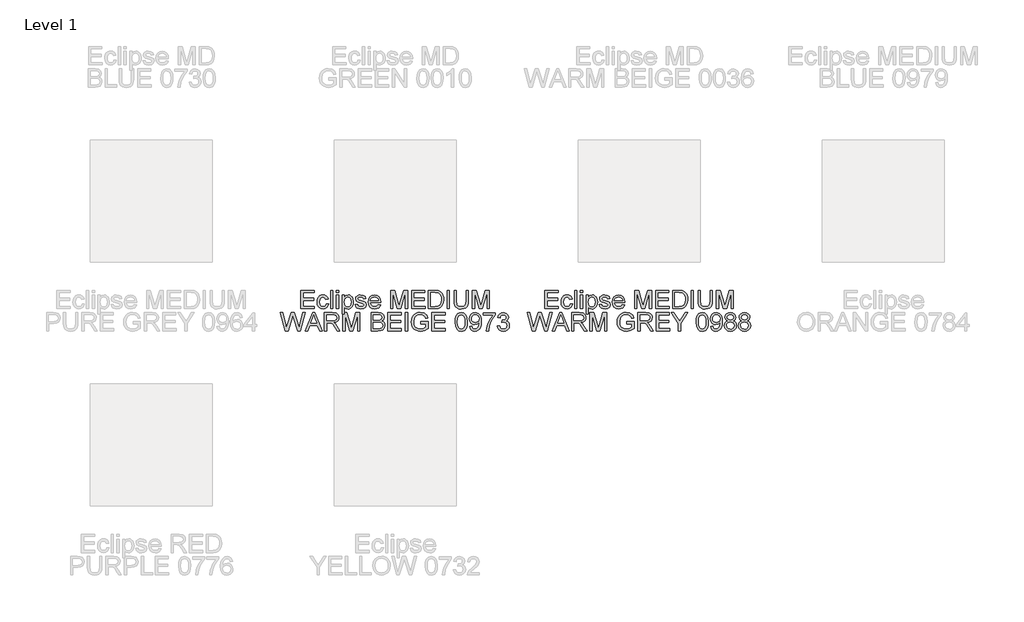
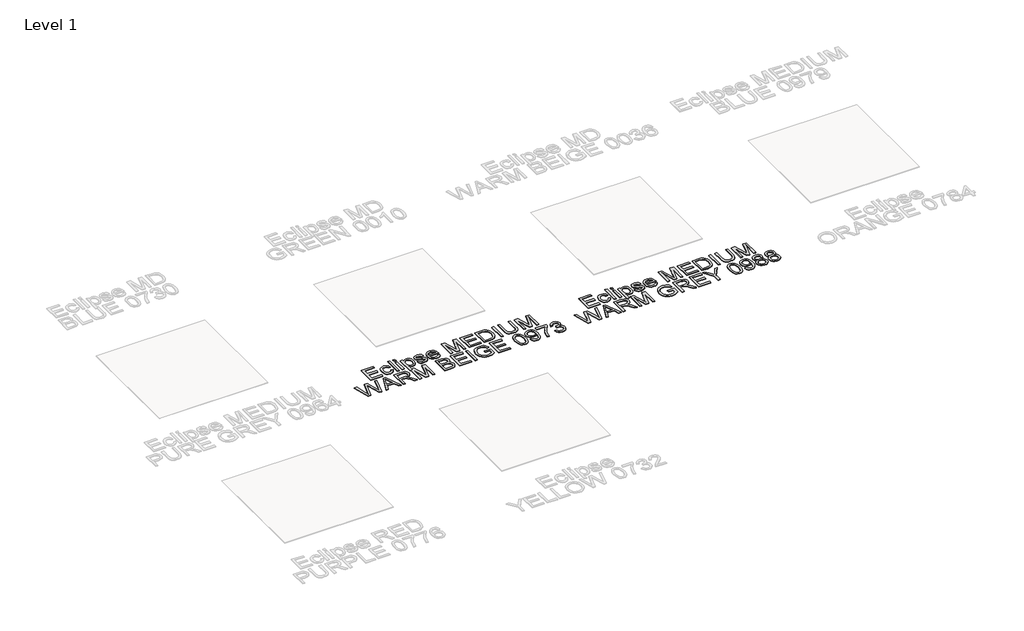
# One storey, part 5 of 13: 2 proxies.
"""IFC4 building model written with IfcOpenShell, lengths in millimetres."""

from ifc_helpers import new_model, si_unit, origin, origin_with_axes, place, context, project, spatial, polyline, outline, extrude, element, save

model = new_model("IFC4")

# Units and contexts
model_context = context("Model", 3, world=origin())
ifc_project = project(units=[si_unit("LENGTHUNIT", "METRE", prefix="MILLI")], contexts=[model_context])

# Site, building, storey
site = spatial("IfcSite", under=ifc_project)
building = spatial("IfcBuilding", under=site)
storey = spatial("IfcBuildingStorey", under=building, Name="Level 1", Elevation=0.0)

# Proxies
placement = place(None, origin())
element("IfcBuildingElementProxy", 1, Name="150mm Arial", ObjectType="150mm Arial", at=placement, inside=storey, context=model_context, shape_type="SweptSolid", body=[
    extrude(outline(polyline([(1293.8012724, -5362.9455422), (1293.8012724, -5212.261077), (1402.1057318, -5212.261077), (1402.1057318, -5231.0966352), (1312.6368306, -5231.0966352), (1312.6368306, -5275.8310858), (1397.3968423, -5275.8310858), (1397.3968423, -5294.6666439), (1312.6368306, -5294.6666439), (1312.6368306, -5344.1099841), (1404.4601766, -5344.1099841), (1404.4601766, -5362.9455422), (1293.8012724, -5362.9455422)])), origin_with_axes(), (0.0, 0.0, 1.0), 5.0),
    extrude(outline(polyline([(1500.9924121, -5322.9199812), (1519.8279703, -5325.2744259), (1514.5764548, -5342.0268523), (1504.7080202, -5354.6865914), (1491.1515687, -5362.6466381), (1474.8360022, -5365.299987), (1454.8002291, -5361.5981744), (1439.1330546, -5350.4927367), (1429.0208983, -5332.4711175), (1425.6501795, -5308.0207603), (1427.0895178, -5291.2591369), (1431.4075327, -5276.7323967), (1438.6732021, -5265.0015595), (1448.9555039, -5256.6276456), (1461.2565581, -5251.6060564), (1474.5784848, -5249.9321933), (1490.4939797, -5252.2314558), (1503.2180982, -5259.1292432), (1512.3461702, -5270.2576735), (1517.4735255, -5285.2488648), (1498.6379673, -5287.6033096), (1489.9007699, -5273.4950351), (1474.7256376, -5268.7677515), (1462.5533421, -5271.0946051), (1452.8918412, -5278.0751659), (1446.5872635, -5290.0865131), (1444.4857376, -5307.5057256), (1446.5412783, -5325.1594628), (1452.7079002, -5337.2121967), (1462.1946572, -5344.1513708), (1474.2106028, -5346.4644288), (1483.9640742, -5345.020492), (1491.9609091, -5340.6886815), (1497.7780432, -5333.3586328), (1500.9924121, -5322.9199812)])), origin_with_axes(), (0.0, 0.0, 1.0), 5.0),
    extrude(outline(polyline([(1536.3090836, -5362.9455422), (1536.3090836, -5212.261077), (1555.1446418, -5212.261077), (1555.1446418, -5362.9455422), (1536.3090836, -5362.9455422)])), origin_with_axes(), (0.0, 0.0, 1.0), 5.0),
    extrude(outline(polyline([(1583.397979, -5231.0966352), (1583.397979, -5212.261077), (1602.2335372, -5212.261077), (1602.2335372, -5231.0966352), (1583.397979, -5231.0966352)])), origin_with_axes(), (0.0, 0.0, 1.0), 5.0),
    extrude(outline(polyline([(1583.397979, -5362.9455422), (1583.397979, -5252.2866381), (1602.2335372, -5252.2866381), (1602.2335372, -5362.9455422), (1583.397979, -5362.9455422)])), origin_with_axes(), (0.0, 0.0, 1.0), 5.0),
    extrude(outline(polyline([(1630.4868744, -5405.3255481), (1630.4868744, -5252.2866381), (1649.3224326, -5252.2866381), (1649.3224326, -5270.7543142), (1662.3454552, -5255.1377235), (1679.9302146, -5249.9321933), (1692.6681286, -5251.7532092), (1703.805756, -5257.2162568), (1712.8740472, -5265.9902424), (1719.4039526, -5277.7440721), (1724.6646652, -5306.7699616), (1723.1793416, -5322.8785944), (1718.7233709, -5337.2857731), (1711.4393074, -5349.260332), (1701.4697054, -5358.0711058), (1689.8584299, -5363.4927667), (1677.6493462, -5365.299987), (1661.2602033, -5360.4623388), (1649.3224326, -5348.2302624), (1649.3224326, -5405.3255481), (1630.4868744, -5405.3255481)]), holes=[polyline([(1649.3224326, -5308.4990069), (1651.3595791, -5325.3847905), (1657.4710187, -5337.1938026), (1666.4887262, -5344.1467723), (1677.244676, -5346.4644288), (1688.1753698, -5344.0639988), (1697.4230034, -5336.8627088), (1703.7275811, -5324.6214354), (1705.829107, -5307.1010554), (1703.7781649, -5290.3072423), (1697.6253385, -5278.3326833), (1688.6214267, -5271.1589844), (1678.0172282, -5268.7677515), (1667.3716429, -5271.3107358), (1658.0228417, -5278.9396886), (1651.4975348, -5291.4154868), (1649.3224326, -5308.4990069)])]), origin_with_axes(), (0.0, 0.0, 1.0), 5.0),
    extrude(outline(polyline([(1738.7913338, -5329.9833155), (1757.6268919, -5327.6288707), (1760.597539, -5335.6854864), (1766.3456952, -5341.6083865), (1786.3216876, -5346.4644288), (1805.5251277, -5342.0130567), (1811.7791216, -5331.565208), (1810.2064261, -5326.764348), (1805.4883395, -5323.1039222), (1786.1009584, -5317.732845), (1757.7372565, -5308.517401), (1745.3580274, -5297.7568527), (1741.1457785, -5282.5633263), (1744.5302929, -5268.5286282), (1753.764131, -5257.804868), (1765.7386899, -5252.2314558), (1781.9438918, -5249.9321933), (1804.8629401, -5253.6294074), (1819.4310671, -5263.6357976), (1825.9057902, -5280.5399753), (1807.0702321, -5282.8944201), (1799.9885037, -5272.5017537), (1783.4154198, -5268.7677515), (1765.389202, -5272.3362068), (1759.9813367, -5280.6503399), (1762.2254169, -5286.1317816), (1769.251963, -5290.2888482), (1785.475559, -5294.2987619), (1813.1218909, -5303.164718), (1825.9609725, -5313.2078965), (1830.6146798, -5329.5786453), (1825.1516321, -5347.604863), (1809.3878887, -5360.683068), (1786.0641702, -5365.299987), (1767.0722622, -5363.0743009), (1753.212308, -5356.3972427), (1743.9600758, -5345.3423888), (1738.7913338, -5329.9833155)])), origin_with_axes(), (0.0, 0.0, 1.0), 5.0),
    extrude(outline(polyline([(1929.2806309, -5329.9833155), (1947.748307, -5332.3377602), (1941.0942415, -5346.2528967), (1930.4762474, -5356.6547601), (1916.1334481, -5363.1386803), (1898.3049669, -5365.299987), (1876.204456, -5361.5705833), (1859.1991108, -5350.3823721), (1848.355789, -5332.4619204), (1844.7413484, -5308.5357951), (1848.3925772, -5283.804928), (1859.3462636, -5265.3096607), (1876.1216826, -5253.7765602), (1897.2381091, -5249.9321933), (1917.6969466, -5253.7673631), (1934.0447027, -5265.2728725), (1944.7638644, -5283.7313516), (1948.3369182, -5308.4254305), (1948.2265536, -5313.5022021), (1863.5769065, -5313.5022021), (1866.8372607, -5327.6012795), (1874.4110313, -5337.9663548), (1885.3417251, -5344.3399103), (1898.6728489, -5346.4644288), (1917.140525, -5342.5280915), (1929.2806309, -5329.9833155)]), holes=[polyline([(1863.5769065, -5294.6666439), (1929.5013601, -5294.6666439), (1926.9537773, -5284.715436), (1921.9597792, -5277.5969193), (1910.9785016, -5270.9750434), (1897.1645327, -5268.7677515), (1884.4680053, -5270.5289865), (1873.9695729, -5275.8126917), (1866.6717138, -5284.0486498), (1863.5769065, -5294.6666439)])]), origin_with_axes(), (0.0, 0.0, 1.0), 5.0),
    extrude(outline(polyline([(2028.3880404, -5362.9455422), (2028.3880404, -5212.261077), (2060.7984442, -5212.261077), (2091.6269554, -5318.468609), (2097.8441611, -5340.6518933), (2104.5764016, -5316.629199), (2134.889878, -5212.261077), (2167.3002818, -5212.261077), (2167.3002818, -5362.9455422), (2148.4647236, -5362.9455422), (2148.4647236, -5231.0966352), (2110.6096663, -5362.9455422), (2085.0786558, -5362.9455422), (2047.2235985, -5231.0966352), (2047.2235985, -5362.9455422), (2028.3880404, -5362.9455422)])), origin_with_axes(), (0.0, 0.0, 1.0), 5.0),
    extrude(outline(polyline([(2200.2625085, -5362.9455422), (2200.2625085, -5212.261077), (2308.5669679, -5212.261077), (2308.5669679, -5231.0966352), (2219.0980667, -5231.0966352), (2219.0980667, -5275.8310858), (2303.8580784, -5275.8310858), (2303.8580784, -5294.6666439), (2219.0980667, -5294.6666439), (2219.0980667, -5344.1099841), (2310.9214127, -5344.1099841), (2310.9214127, -5362.9455422), (2200.2625085, -5362.9455422)])), origin_with_axes(), (0.0, 0.0, 1.0), 5.0),
    extrude(outline(polyline([(2339.1747499, -5362.9455422), (2339.1747499, -5212.261077), (2391.1564758, -5212.261077), (2418.0486497, -5214.4315808), (2440.1951458, -5225.2105232), (2450.6154033, -5236.6884415), (2458.0374225, -5250.9622629), (2462.4795976, -5267.756076), (2463.9603227, -5286.7939692), (2459.9504089, -5317.1994161), (2449.6497131, -5339.1435771), (2435.8909264, -5352.8103933), (2417.8831028, -5360.3703683), (2393.6580734, -5362.9455422), (2339.1747499, -5362.9455422)]), holes=[polyline([(2358.0103081, -5344.1099841), (2391.3404168, -5344.1099841), (2415.5838403, -5341.3876573), (2429.5633561, -5333.6989236), (2441.0228803, -5314.9921242), (2445.1247645, -5286.4996636), (2443.1152091, -5265.9718483), (2437.0865429, -5250.8151101), (2428.1792001, -5240.4040496), (2417.5336149, -5234.1132675), (2390.825382, -5231.0966352), (2358.0103081, -5231.0966352), (2358.0103081, -5344.1099841)])]), origin_with_axes(), (0.0, 0.0, 1.0), 5.0),
    extrude(outline(polyline([(2492.2136599, -5362.9455422), (2492.2136599, -5212.261077), (2511.0492181, -5212.261077), (2511.0492181, -5362.9455422), (2492.2136599, -5362.9455422)])), origin_with_axes(), (0.0, 0.0, 1.0), 5.0),
    extrude(outline(polyline([(2647.6070147, -5212.261077), (2666.4425728, -5212.261077), (2666.4425728, -5299.1915925), (2665.1641829, -5319.5492624), (2661.3290131, -5335.2256339), (2654.1645112, -5347.3197545), (2642.8981251, -5356.9306716), (2627.5022636, -5363.2076582), (2607.9493356, -5365.299987), (2588.8240704, -5363.4789711), (2573.5339749, -5358.0159235), (2562.0744508, -5349.0993836), (2554.4408994, -5336.9178911), (2550.1504756, -5320.579332), (2548.7203344, -5299.1915925), (2548.7203344, -5212.261077), (2567.5558925, -5212.261077), (2567.5558925, -5298.5294049), (2571.2715007, -5327.2425946), (2576.320681, -5335.4049764), (2584.0370059, -5341.4612337), (2606.183502, -5346.4644288), (2625.3409569, -5343.9904224), (2638.078871, -5336.5684032), (2645.2249787, -5322.1106408), (2647.6070147, -5298.5294049), (2647.6070147, -5212.261077)])), origin_with_axes(), (0.0, 0.0, 1.0), 5.0),
    extrude(outline(polyline([(2699.4047996, -5362.9455422), (2699.4047996, -5212.261077), (2731.8152034, -5212.261077), (2762.6437146, -5318.468609), (2768.8609203, -5340.6518933), (2775.5931608, -5316.629199), (2805.9066372, -5212.261077), (2838.317041, -5212.261077), (2838.317041, -5362.9455422), (2819.4814828, -5362.9455422), (2819.4814828, -5231.0966352), (2781.6264255, -5362.9455422), (2756.095415, -5362.9455422), (2718.2403577, -5231.0966352), (2718.2403577, -5362.9455422), (2699.4047996, -5362.9455422)])), origin_with_axes(), (0.0, 0.0, 1.0), 5.0),
    extrude(outline(polyline([(1165.3736679, -5545.907769), (1124.281249, -5395.2233038), (1143.7054184, -5395.2233038), (1167.5441717, -5494.2571369), (1174.9018116, -5524.8281307), (1182.7744863, -5497.788804), (1212.6465043, -5395.2233038), (1240.6423241, -5395.2233038), (1262.3473618, -5469.572255), (1278.4973814, -5524.8281307), (1285.6342921, -5495.1400537), (1309.6937746, -5395.2233038), (1329.117944, -5395.2233038), (1287.9887369, -5545.907769), (1267.8655918, -5545.907769), (1231.7395798, -5429.6570585), (1226.6995965, -5413.4334625), (1221.0342138, -5432.9679965), (1188.1087752, -5545.907769), (1165.3736679, -5545.907769)])), origin_with_axes(), (0.0, 0.0, 1.0), 5.0),
    extrude(outline(polyline([(1330.4055309, -5545.907769), (1390.5542371, -5395.2233038), (1406.5938921, -5395.2233038), (1466.7425983, -5545.907769), (1446.8401824, -5545.907769), (1429.5865168, -5498.8188736), (1367.5248242, -5498.8188736), (1350.3079469, -5545.907769), (1330.4055309, -5545.907769)]), holes=[polyline([(1374.4410058, -5479.9833155), (1422.7071235, -5479.9833155), (1409.1322779, -5442.9375985), (1398.5740646, -5414.0588619), (1389.1930738, -5439.700237), (1374.4410058, -5479.9833155)])]), origin_with_axes(), (0.0, 0.0, 1.0), 5.0),
    extrude(outline(polyline([(1486.8657435, -5545.907769), (1486.8657435, -5395.2233038), (1551.7969156, -5395.2233038), (1581.9448451, -5399.2883998), (1591.2246685, -5404.9169943), (1598.4259585, -5413.6725858), (1603.0474761, -5424.5297032), (1604.5879819, -5436.4628754), (1602.0358006, -5451.3069139), (1594.3792566, -5463.6125667), (1581.3884236, -5472.6348726), (1562.8333755, -5477.6288707), (1573.5387415, -5485.6854864), (1588.8058443, -5505.0728675), (1613.9321846, -5545.907769), (1592.0432059, -5545.907769), (1572.4350956, -5514.6745876), (1558.2716387, -5493.9996195), (1548.3204308, -5484.2323525), (1539.3625042, -5480.6455031), (1528.4364089, -5479.9833155), (1505.7013016, -5479.9833155), (1505.7013016, -5545.907769), (1486.8657435, -5545.907769)]), holes=[polyline([(1505.7013016, -5461.1477573), (1547.8605783, -5461.1477573), (1569.3632809, -5458.4806128), (1581.5769631, -5449.9457506), (1585.7524238, -5437.1618512), (1583.7612625, -5427.9739984), (1577.7877786, -5420.5703732), (1567.5100754, -5415.6867398), (1552.606256, -5414.0588619), (1505.7013016, -5414.0588619), (1505.7013016, -5461.1477573)])]), origin_with_axes(), (0.0, 0.0, 1.0), 5.0),
    extrude(outline(polyline([(1637.5502087, -5545.907769), (1637.5502087, -5395.2233038), (1669.9606125, -5395.2233038), (1700.7891237, -5501.4308358), (1707.0063294, -5523.6141201), (1713.7385699, -5499.5914258), (1744.0520463, -5395.2233038), (1776.4624501, -5395.2233038), (1776.4624501, -5545.907769), (1757.6268919, -5545.907769), (1757.6268919, -5414.0588619), (1719.7718346, -5545.907769), (1694.2408242, -5545.907769), (1656.3857669, -5414.0588619), (1656.3857669, -5545.907769), (1637.5502087, -5545.907769)])), origin_with_axes(), (0.0, 0.0, 1.0), 5.0),
    extrude(outline(polyline([(1868.2857961, -5545.907769), (1868.2857961, -5395.2233038), (1925.7857519, -5395.2233038), (1953.9471187, -5399.6562818), (1963.410883, -5405.2802778), (1970.5753848, -5413.2863097), (1976.5902555, -5432.5633263), (1971.531878, -5450.1664798), (1956.2463811, -5463.5022021), (1966.9195575, -5469.0756143), (1974.8060278, -5477.5552943), (1979.6758657, -5488.380222), (1981.299145, -5500.9893774), (1976.866167, -5521.2412812), (1965.8848894, -5535.6622554), (1949.4957465, -5543.3142009), (1925.3442935, -5545.907769), (1868.2857961, -5545.907769)]), holes=[polyline([(1887.1213542, -5456.4388678), (1921.5183208, -5456.4388678), (1941.6046777, -5454.820187), (1953.6896013, -5447.8488232), (1957.7546973, -5435.5799586), (1953.9655128, -5423.2927), (1943.1129939, -5416.0270306), (1918.9063586, -5414.0588619), (1887.1213542, -5414.0588619), (1887.1213542, -5456.4388678)]), polyline([(1887.1213542, -5527.0722108), (1925.7489637, -5527.0722108), (1939.7284795, -5526.3364469), (1951.5558857, -5522.2345626), (1959.3917722, -5513.8652472), (1962.4635868, -5501.1733184), (1958.8583433, -5486.531615), (1947.1780899, -5477.7944176), (1923.9095538, -5475.2744259), (1887.1213542, -5475.2744259), (1887.1213542, -5527.0722108)])]), origin_with_axes(), (0.0, 0.0, 1.0), 5.0),
    extrude(outline(polyline([(2007.1980375, -5545.907769), (2007.1980375, -5395.2233038), (2115.5024968, -5395.2233038), (2115.5024968, -5414.0588619), (2026.0335956, -5414.0588619), (2026.0335956, -5458.7933125), (2110.7936073, -5458.7933125), (2110.7936073, -5477.6288707), (2026.0335956, -5477.6288707), (2026.0335956, -5527.0722108), (2117.8569416, -5527.0722108), (2117.8569416, -5545.907769), (2007.1980375, -5545.907769)])), origin_with_axes(), (0.0, 0.0, 1.0), 5.0),
    extrude(outline(polyline([(2148.4647236, -5545.907769), (2148.4647236, -5395.2233038), (2167.3002818, -5395.2233038), (2167.3002818, -5545.907769), (2148.4647236, -5545.907769)])), origin_with_axes(), (0.0, 0.0, 1.0), 5.0),
    extrude(outline(polyline([(2275.6047411, -5487.0466498), (2275.6047411, -5468.2110916), (2336.8203051, -5468.2110916), (2336.8203051, -5524.5338251), (2306.5987992, -5542.3025254), (2274.648248, -5548.2622138), (2253.5180259, -5545.8939734), (2234.4203518, -5538.7892524), (2218.5554407, -5527.196371), (2207.1235077, -5511.3636497), (2200.2119248, -5492.3717416), (2197.9080638, -5471.3013004), (2200.2027277, -5450.0791078), (2207.0867195, -5430.3376402), (2218.2749307, -5413.7783519), (2233.4822527, -5402.1026971), (2252.0051112, -5395.1773185), (2273.1399318, -5392.868859), (2302.6072796, -5398.221542), (2314.3565108, -5404.6226887), (2323.2638536, -5413.1207628), (2334.6498014, -5438.044768), (2317.2857712, -5442.9375985), (2308.6957266, -5425.5183861), (2294.017235, -5415.4752076), (2272.8456262, -5411.7044172), (2248.7309614, -5415.7695132), (2232.3234244, -5426.4380911), (2222.6297338, -5440.9510358), (2216.7436219, -5470.5287482), (2218.514054, -5488.5411704), (2223.8253503, -5503.3622163), (2232.5165625, -5514.8861198), (2244.4267421, -5523.0071148), (2258.3648711, -5527.8217704), (2273.1399318, -5529.4266556), (2298.9100655, -5524.5890074), (2317.984747, -5514.2699174), (2317.984747, -5487.0466498), (2275.6047411, -5487.0466498)])), origin_with_axes(), (0.0, 0.0, 1.0), 5.0),
    extrude(outline(polyline([(2367.4280871, -5545.907769), (2367.4280871, -5395.2233038), (2475.7325465, -5395.2233038), (2475.7325465, -5414.0588619), (2386.2636453, -5414.0588619), (2386.2636453, -5458.7933125), (2471.023657, -5458.7933125), (2471.023657, -5477.6288707), (2386.2636453, -5477.6288707), (2386.2636453, -5527.0722108), (2478.0869913, -5527.0722108), (2478.0869913, -5545.907769), (2367.4280871, -5545.907769)])), origin_with_axes(), (0.0, 0.0, 1.0), 5.0),
    extrude(outline(polyline([(2558.1381134, -5471.779547), (2559.5222694, -5447.6602837), (2563.6747375, -5428.4246538), (2570.5541308, -5413.7783519), (2580.1190626, -5403.4270723), (2592.438511, -5397.2742459), (2607.5814536, -5395.2233038), (2629.5807969, -5400.0793461), (2644.7743233, -5414.077256), (2653.6034912, -5436.3709049), (2657.0247937, -5471.779547), (2655.6544333, -5495.7608545), (2651.543352, -5514.9504991), (2644.7053454, -5529.6105966), (2635.1542091, -5540.003263), (2622.8071697, -5546.1974761), (2607.5814536, -5548.2622138), (2588.0101314, -5544.6753643), (2573.1476988, -5533.914816), (2561.8905098, -5508.4297907), (2558.1381134, -5471.779547)]), holes=[polyline([(2576.9736716, -5471.7427588), (2579.1809636, -5501.371055), (2585.8028395, -5518.5189545), (2595.6620769, -5526.6997303), (2607.5814536, -5529.4266556), (2619.5008302, -5526.6905333), (2629.3600677, -5518.4821663), (2635.9819436, -5501.3250697), (2638.1892356, -5471.7427588), (2636.05552, -5442.7812487), (2629.6543733, -5425.499992), (2619.8135299, -5416.9191444), (2607.3607244, -5414.0588619), (2595.5701064, -5416.5788536), (2586.0971451, -5424.1388286), (2579.25454, -5442.4961402), (2576.9736716, -5471.7427588)])]), origin_with_axes(), (0.0, 0.0, 1.0), 5.0),
    extrude(outline(polyline([(2675.8603519, -5508.2366527), (2694.69591, -5505.8822079), (2697.9148775, -5516.5737784), (2703.1571959, -5523.8532434), (2710.2941066, -5528.0333026), (2719.1968509, -5529.4266556), (2734.4455596, -5525.8398062), (2744.7830437, -5516.2564802), (2750.9450671, -5499.8857314), (2753.6673939, -5478.0335409), (2753.5570293, -5474.3547209), (2738.4922616, -5488.6285423), (2717.8356875, -5494.1099841), (2700.6601969, -5490.7622579), (2686.3633829, -5480.7190795), (2676.7202761, -5465.2036563), (2673.5059071, -5445.4391961), (2676.8766259, -5425.0217454), (2686.9887822, -5409.0188786), (2702.1777101, -5398.6721975), (2720.7787435, -5395.2233038), (2734.8272372, -5397.1914724), (2747.6157351, -5403.0959785), (2758.3119041, -5412.6425162), (2766.0834112, -5425.5367802), (2770.8152934, -5443.3606628), (2772.3925874, -5467.6960568), (2770.8198919, -5493.4983803), (2766.1018053, -5513.4421829), (2758.2797144, -5528.4287757), (2747.3950059, -5539.3594695), (2733.9167293, -5546.0365277), (2718.3139341, -5548.2622138), (2702.2098998, -5545.636456), (2689.3616211, -5537.7591828), (2680.3761034, -5525.1270348), (2675.8603519, -5508.2366527)]), holes=[polyline([(2753.5570293, -5444.9977377), (2751.5244813, -5432.2322325), (2745.4268372, -5422.4097832), (2735.9630729, -5416.1465922), (2723.8321641, -5414.0588619), (2711.2505998, -5416.3075406), (2701.1706332, -5423.0535767), (2694.5487572, -5433.3772652), (2692.3414653, -5446.3589011), (2694.4291956, -5457.9977677), (2700.6923866, -5467.2362043), (2710.5240329, -5473.2648705), (2723.3171293, -5475.2744259), (2735.351469, -5473.2648705), (2745.0405611, -5467.2362043), (2751.4279122, -5457.6574769), (2753.5570293, -5444.9977377)])]), origin_with_axes(), (0.0, 0.0, 1.0), 5.0),
    extrude(outline(polyline([(2788.8737008, -5416.4133067), (2788.8737008, -5397.5777485), (2887.7603811, -5397.5777485), (2887.7603811, -5412.8080631), (2859.709379, -5453.3302649), (2847.3991277, -5478.7922975), (2838.2434646, -5504.9625029), (2831.2537067, -5545.907769), (2812.4181485, -5545.907769), (2819.9045471, -5503.4173986), (2828.6187519, -5478.9578444), (2840.4507565, -5455.3904041), (2868.924823, -5416.4133067), (2788.8737008, -5416.4133067)])), origin_with_axes(), (0.0, 0.0, 1.0), 5.0),
    extrude(outline(polyline([(2904.2414945, -5505.8822079), (2923.0770527, -5503.5277632), (2927.2939, -5515.3643663), (2933.469719, -5523.3566027), (2941.9080123, -5527.9091424), (2952.9122825, -5529.4266556), (2965.8249405, -5527.3389253), (2975.7945426, -5521.0757343), (2982.1680981, -5511.7315316), (2984.2926167, -5500.4007662), (2982.1864922, -5489.6448164), (2975.868119, -5480.9214145), (2966.3031871, -5475.1410687), (2954.4573868, -5473.2142868), (2941.2504232, -5475.2744259), (2943.3473506, -5456.4388678), (2946.3639829, -5456.659597), (2967.7379269, -5451.2517316), (2974.8564435, -5444.3907324), (2977.2292823, -5434.6234655), (2975.509434, -5426.4886748), (2970.349889, -5419.8897915), (2962.4772143, -5415.5165943), (2952.6179769, -5414.0588619), (2942.7403453, -5415.5303899), (2934.6653355, -5419.9449738), (2928.7700265, -5427.3026138), (2925.4314974, -5437.6033096), (2906.5959393, -5435.2488648), (2912.1417603, -5418.3354901), (2922.0101949, -5405.7079406), (2935.5114641, -5397.844463), (2951.9557893, -5395.2233038), (2974.6725025, -5400.3920458), (2990.5650047, -5414.5187144), (2996.0648405, -5433.5198195), (2990.8409162, -5450.8838496), (2975.3898724, -5463.3550493), (2987.1804903, -5468.1191211), (2995.9176877, -5476.2309191), (3001.325553, -5487.2489849), (3003.1281748, -5500.73186), (2999.5229313, -5519.0891715), (2988.7072006, -5534.4298507), (2972.3824371, -5544.804123), (2952.2500949, -5548.2622138), (2934.0399361, -5545.3099608), (2919.2142917, -5536.4532017), (2908.9043988, -5522.9059472), (2904.2414945, -5505.8822079)])), origin_with_axes(), (0.0, 0.0, 1.0), 5.0),
])
element("IfcBuildingElementProxy", 2, Name="150mm Arial", ObjectType="150mm Arial", at=placement, inside=storey, context=model_context, shape_type="SweptSolid", body=[
    extrude(outline(polyline([(3293.8012724, -5362.9455422), (3293.8012724, -5212.261077), (3402.1057318, -5212.261077), (3402.1057318, -5231.0966352), (3312.6368306, -5231.0966352), (3312.6368306, -5275.8310858), (3397.3968423, -5275.8310858), (3397.3968423, -5294.6666439), (3312.6368306, -5294.6666439), (3312.6368306, -5344.1099841), (3404.4601766, -5344.1099841), (3404.4601766, -5362.9455422), (3293.8012724, -5362.9455422)])), origin_with_axes(), (0.0, 0.0, 1.0), 5.0),
    extrude(outline(polyline([(3500.9924121, -5322.9199812), (3519.8279703, -5325.2744259), (3514.5764548, -5342.0268523), (3504.7080202, -5354.6865914), (3491.1515687, -5362.6466381), (3474.8360022, -5365.299987), (3454.8002291, -5361.5981744), (3439.1330546, -5350.4927367), (3429.0208983, -5332.4711175), (3425.6501795, -5308.0207603), (3427.0895178, -5291.2591369), (3431.4075327, -5276.7323967), (3438.6732021, -5265.0015595), (3448.9555039, -5256.6276456), (3461.2565581, -5251.6060564), (3474.5784848, -5249.9321933), (3490.4939797, -5252.2314558), (3503.2180982, -5259.1292432), (3512.3461702, -5270.2576735), (3517.4735255, -5285.2488648), (3498.6379673, -5287.6033096), (3489.9007699, -5273.4950351), (3474.7256376, -5268.7677515), (3462.5533421, -5271.0946051), (3452.8918412, -5278.0751659), (3446.5872635, -5290.0865131), (3444.4857376, -5307.5057256), (3446.5412783, -5325.1594628), (3452.7079002, -5337.2121967), (3462.1946572, -5344.1513708), (3474.2106028, -5346.4644288), (3483.9640742, -5345.020492), (3491.9609091, -5340.6886815), (3497.7780432, -5333.3586328), (3500.9924121, -5322.9199812)])), origin_with_axes(), (0.0, 0.0, 1.0), 5.0),
    extrude(outline(polyline([(3536.3090836, -5362.9455422), (3536.3090836, -5212.261077), (3555.1446418, -5212.261077), (3555.1446418, -5362.9455422), (3536.3090836, -5362.9455422)])), origin_with_axes(), (0.0, 0.0, 1.0), 5.0),
    extrude(outline(polyline([(3583.397979, -5231.0966352), (3583.397979, -5212.261077), (3602.2335372, -5212.261077), (3602.2335372, -5231.0966352), (3583.397979, -5231.0966352)])), origin_with_axes(), (0.0, 0.0, 1.0), 5.0),
    extrude(outline(polyline([(3583.397979, -5362.9455422), (3583.397979, -5252.2866381), (3602.2335372, -5252.2866381), (3602.2335372, -5362.9455422), (3583.397979, -5362.9455422)])), origin_with_axes(), (0.0, 0.0, 1.0), 5.0),
    extrude(outline(polyline([(3630.4868744, -5405.3255481), (3630.4868744, -5252.2866381), (3649.3224326, -5252.2866381), (3649.3224326, -5270.7543142), (3662.3454552, -5255.1377235), (3679.9302146, -5249.9321933), (3692.6681286, -5251.7532092), (3703.805756, -5257.2162568), (3712.8740472, -5265.9902424), (3719.4039526, -5277.7440721), (3724.6646652, -5306.7699616), (3723.1793416, -5322.8785944), (3718.7233709, -5337.2857731), (3711.4393074, -5349.260332), (3701.4697054, -5358.0711058), (3689.8584299, -5363.4927667), (3677.6493462, -5365.299987), (3661.2602033, -5360.4623388), (3649.3224326, -5348.2302624), (3649.3224326, -5405.3255481), (3630.4868744, -5405.3255481)]), holes=[polyline([(3649.3224326, -5308.4990069), (3651.3595791, -5325.3847905), (3657.4710187, -5337.1938026), (3666.4887262, -5344.1467723), (3677.244676, -5346.4644288), (3688.1753698, -5344.0639988), (3697.4230034, -5336.8627088), (3703.7275811, -5324.6214354), (3705.829107, -5307.1010554), (3703.7781649, -5290.3072423), (3697.6253385, -5278.3326833), (3688.6214267, -5271.1589844), (3678.0172282, -5268.7677515), (3667.3716429, -5271.3107358), (3658.0228417, -5278.9396886), (3651.4975348, -5291.4154868), (3649.3224326, -5308.4990069)])]), origin_with_axes(), (0.0, 0.0, 1.0), 5.0),
    extrude(outline(polyline([(3738.7913338, -5329.9833155), (3757.6268919, -5327.6288707), (3760.597539, -5335.6854864), (3766.3456952, -5341.6083865), (3786.3216876, -5346.4644288), (3805.5251277, -5342.0130567), (3811.7791216, -5331.565208), (3810.2064261, -5326.764348), (3805.4883395, -5323.1039222), (3786.1009584, -5317.732845), (3757.7372565, -5308.517401), (3745.3580274, -5297.7568527), (3741.1457785, -5282.5633263), (3744.5302929, -5268.5286282), (3753.764131, -5257.804868), (3765.7386899, -5252.2314558), (3781.9438918, -5249.9321933), (3804.8629401, -5253.6294074), (3819.4310671, -5263.6357976), (3825.9057902, -5280.5399753), (3807.0702321, -5282.8944201), (3799.9885037, -5272.5017537), (3783.4154198, -5268.7677515), (3765.389202, -5272.3362068), (3759.9813367, -5280.6503399), (3762.2254169, -5286.1317816), (3769.251963, -5290.2888482), (3785.475559, -5294.2987619), (3813.1218909, -5303.164718), (3825.9609725, -5313.2078965), (3830.6146798, -5329.5786453), (3825.1516321, -5347.604863), (3809.3878887, -5360.683068), (3786.0641702, -5365.299987), (3767.0722622, -5363.0743009), (3753.212308, -5356.3972427), (3743.9600758, -5345.3423888), (3738.7913338, -5329.9833155)])), origin_with_axes(), (0.0, 0.0, 1.0), 5.0),
    extrude(outline(polyline([(3929.2806309, -5329.9833155), (3947.748307, -5332.3377602), (3941.0942415, -5346.2528967), (3930.4762474, -5356.6547601), (3916.1334481, -5363.1386803), (3898.3049669, -5365.299987), (3876.204456, -5361.5705833), (3859.1991108, -5350.3823721), (3848.355789, -5332.4619204), (3844.7413484, -5308.5357951), (3848.3925772, -5283.804928), (3859.3462636, -5265.3096607), (3876.1216826, -5253.7765602), (3897.2381091, -5249.9321933), (3917.6969466, -5253.7673631), (3934.0447027, -5265.2728725), (3944.7638644, -5283.7313516), (3948.3369182, -5308.4254305), (3948.2265536, -5313.5022021), (3863.5769065, -5313.5022021), (3866.8372607, -5327.6012795), (3874.4110313, -5337.9663548), (3885.3417251, -5344.3399103), (3898.6728489, -5346.4644288), (3917.140525, -5342.5280915), (3929.2806309, -5329.9833155)]), holes=[polyline([(3863.5769065, -5294.6666439), (3929.5013601, -5294.6666439), (3926.9537773, -5284.715436), (3921.9597792, -5277.5969193), (3910.9785016, -5270.9750434), (3897.1645327, -5268.7677515), (3884.4680053, -5270.5289865), (3873.9695729, -5275.8126917), (3866.6717138, -5284.0486498), (3863.5769065, -5294.6666439)])]), origin_with_axes(), (0.0, 0.0, 1.0), 5.0),
    extrude(outline(polyline([(4028.3880404, -5362.9455422), (4028.3880404, -5212.261077), (4060.7984442, -5212.261077), (4091.6269554, -5318.468609), (4097.8441611, -5340.6518933), (4104.5764016, -5316.629199), (4134.889878, -5212.261077), (4167.3002818, -5212.261077), (4167.3002818, -5362.9455422), (4148.4647236, -5362.9455422), (4148.4647236, -5231.0966352), (4110.6096663, -5362.9455422), (4085.0786558, -5362.9455422), (4047.2235985, -5231.0966352), (4047.2235985, -5362.9455422), (4028.3880404, -5362.9455422)])), origin_with_axes(), (0.0, 0.0, 1.0), 5.0),
    extrude(outline(polyline([(4200.2625085, -5362.9455422), (4200.2625085, -5212.261077), (4308.5669679, -5212.261077), (4308.5669679, -5231.0966352), (4219.0980667, -5231.0966352), (4219.0980667, -5275.8310858), (4303.8580784, -5275.8310858), (4303.8580784, -5294.6666439), (4219.0980667, -5294.6666439), (4219.0980667, -5344.1099841), (4310.9214127, -5344.1099841), (4310.9214127, -5362.9455422), (4200.2625085, -5362.9455422)])), origin_with_axes(), (0.0, 0.0, 1.0), 5.0),
    extrude(outline(polyline([(4339.1747499, -5362.9455422), (4339.1747499, -5212.261077), (4391.1564758, -5212.261077), (4418.0486497, -5214.4315808), (4440.1951458, -5225.2105232), (4450.6154033, -5236.6884415), (4458.0374225, -5250.9622629), (4462.4795976, -5267.756076), (4463.9603227, -5286.7939692), (4459.9504089, -5317.1994161), (4449.6497131, -5339.1435771), (4435.8909264, -5352.8103933), (4417.8831028, -5360.3703683), (4393.6580734, -5362.9455422), (4339.1747499, -5362.9455422)]), holes=[polyline([(4358.0103081, -5344.1099841), (4391.3404168, -5344.1099841), (4415.5838403, -5341.3876573), (4429.5633561, -5333.6989236), (4441.0228803, -5314.9921242), (4445.1247645, -5286.4996636), (4443.1152091, -5265.9718483), (4437.0865429, -5250.8151101), (4428.1792001, -5240.4040496), (4417.5336149, -5234.1132675), (4390.825382, -5231.0966352), (4358.0103081, -5231.0966352), (4358.0103081, -5344.1099841)])]), origin_with_axes(), (0.0, 0.0, 1.0), 5.0),
    extrude(outline(polyline([(4492.2136599, -5362.9455422), (4492.2136599, -5212.261077), (4511.0492181, -5212.261077), (4511.0492181, -5362.9455422), (4492.2136599, -5362.9455422)])), origin_with_axes(), (0.0, 0.0, 1.0), 5.0),
    extrude(outline(polyline([(4647.6070147, -5212.261077), (4666.4425728, -5212.261077), (4666.4425728, -5299.1915925), (4665.1641829, -5319.5492624), (4661.3290131, -5335.2256339), (4654.1645112, -5347.3197545), (4642.8981251, -5356.9306716), (4627.5022636, -5363.2076582), (4607.9493356, -5365.299987), (4588.8240704, -5363.4789711), (4573.5339749, -5358.0159235), (4562.0744508, -5349.0993836), (4554.4408994, -5336.9178911), (4550.1504756, -5320.579332), (4548.7203344, -5299.1915925), (4548.7203344, -5212.261077), (4567.5558925, -5212.261077), (4567.5558925, -5298.5294049), (4571.2715007, -5327.2425946), (4576.320681, -5335.4049764), (4584.0370059, -5341.4612337), (4606.183502, -5346.4644288), (4625.3409569, -5343.9904224), (4638.078871, -5336.5684032), (4645.2249787, -5322.1106408), (4647.6070147, -5298.5294049), (4647.6070147, -5212.261077)])), origin_with_axes(), (0.0, 0.0, 1.0), 5.0),
    extrude(outline(polyline([(4699.4047996, -5362.9455422), (4699.4047996, -5212.261077), (4731.8152034, -5212.261077), (4762.6437146, -5318.468609), (4768.8609203, -5340.6518933), (4775.5931608, -5316.629199), (4805.9066372, -5212.261077), (4838.317041, -5212.261077), (4838.317041, -5362.9455422), (4819.4814828, -5362.9455422), (4819.4814828, -5231.0966352), (4781.6264255, -5362.9455422), (4756.095415, -5362.9455422), (4718.2403577, -5231.0966352), (4718.2403577, -5362.9455422), (4699.4047996, -5362.9455422)])), origin_with_axes(), (0.0, 0.0, 1.0), 5.0),
    extrude(outline(polyline([(3190.095338, -5545.907769), (3149.0029191, -5395.2233038), (3168.4270885, -5395.2233038), (3192.2658417, -5494.2571369), (3199.6234816, -5524.8281307), (3207.4961563, -5497.788804), (3237.3681744, -5395.2233038), (3265.3639942, -5395.2233038), (3287.0690319, -5469.572255), (3303.2190515, -5524.8281307), (3310.3559622, -5495.1400537), (3334.4154447, -5395.2233038), (3353.839614, -5395.2233038), (3312.710407, -5545.907769), (3292.5872618, -5545.907769), (3256.4612499, -5429.6570585), (3251.4212666, -5413.4334625), (3245.7558838, -5432.9679965), (3212.8304453, -5545.907769), (3190.095338, -5545.907769)])), origin_with_axes(), (0.0, 0.0, 1.0), 5.0),
    extrude(outline(polyline([(3355.127201, -5545.907769), (3415.2759072, -5395.2233038), (3431.3155622, -5395.2233038), (3491.4642684, -5545.907769), (3471.5618525, -5545.907769), (3454.3081869, -5498.8188736), (3392.2464943, -5498.8188736), (3375.0296169, -5545.907769), (3355.127201, -5545.907769)]), holes=[polyline([(3399.1626758, -5479.9833155), (3447.4287936, -5479.9833155), (3433.853948, -5442.9375985), (3423.2957347, -5414.0588619), (3413.9147438, -5439.700237), (3399.1626758, -5479.9833155)])]), origin_with_axes(), (0.0, 0.0, 1.0), 5.0),
    extrude(outline(polyline([(3511.5874136, -5545.907769), (3511.5874136, -5395.2233038), (3576.5185857, -5395.2233038), (3606.6665152, -5399.2883998), (3615.9463385, -5404.9169943), (3623.1476286, -5413.6725858), (3627.7691462, -5424.5297032), (3629.309652, -5436.4628754), (3626.7574707, -5451.3069139), (3619.1009266, -5463.6125667), (3606.1100937, -5472.6348726), (3587.5550456, -5477.6288707), (3598.2604116, -5485.6854864), (3613.5275144, -5505.0728675), (3638.6538547, -5545.907769), (3616.764876, -5545.907769), (3597.1567656, -5514.6745876), (3582.9933088, -5493.9996195), (3573.0421009, -5484.2323525), (3564.0841743, -5480.6455031), (3553.158079, -5479.9833155), (3530.4229717, -5479.9833155), (3530.4229717, -5545.907769), (3511.5874136, -5545.907769)]), holes=[polyline([(3530.4229717, -5461.1477573), (3572.5822484, -5461.1477573), (3594.084951, -5458.4806128), (3606.2986332, -5449.9457506), (3610.4740939, -5437.1618512), (3608.4829326, -5427.9739984), (3602.5094487, -5420.5703732), (3592.2317454, -5415.6867398), (3577.3279261, -5414.0588619), (3530.4229717, -5414.0588619), (3530.4229717, -5461.1477573)])]), origin_with_axes(), (0.0, 0.0, 1.0), 5.0),
    extrude(outline(polyline([(3662.2718788, -5545.907769), (3662.2718788, -5395.2233038), (3694.6822826, -5395.2233038), (3725.5107938, -5501.4308358), (3731.7279995, -5523.6141201), (3738.46024, -5499.5914258), (3768.7737164, -5395.2233038), (3801.1841202, -5395.2233038), (3801.1841202, -5545.907769), (3782.348562, -5545.907769), (3782.348562, -5414.0588619), (3744.4935047, -5545.907769), (3718.9624942, -5545.907769), (3681.1074369, -5414.0588619), (3681.1074369, -5545.907769), (3662.2718788, -5545.907769)])), origin_with_axes(), (0.0, 0.0, 1.0), 5.0),
    extrude(outline(polyline([(3963.6408092, -5487.0466498), (3963.6408092, -5468.2110916), (4024.8563732, -5468.2110916), (4024.8563732, -5524.5338251), (3994.6348673, -5542.3025254), (3962.684316, -5548.2622138), (3941.5540939, -5545.8939734), (3922.4564199, -5538.7892524), (3906.5915088, -5527.196371), (3895.1595758, -5511.3636497), (3888.2479928, -5492.3717416), (3885.9441319, -5471.3013004), (3888.2387958, -5450.0791078), (3895.1227876, -5430.3376402), (3906.3109988, -5413.7783519), (3921.5183208, -5402.1026971), (3940.0411792, -5395.1773185), (3961.1759999, -5392.868859), (3990.6433477, -5398.221542), (4002.3925789, -5404.6226887), (4011.2999217, -5413.1207628), (4022.6858695, -5438.044768), (4005.3218393, -5442.9375985), (3996.7317947, -5425.5183861), (3982.0533031, -5415.4752076), (3960.8816943, -5411.7044172), (3936.7670295, -5415.7695132), (3920.3594925, -5426.4380911), (3910.6658019, -5440.9510358), (3904.77969, -5470.5287482), (3906.5501221, -5488.5411704), (3911.8614184, -5503.3622163), (3920.5526305, -5514.8861198), (3932.4628101, -5523.0071148), (3946.4009392, -5527.8217704), (3961.1759999, -5529.4266556), (3986.9461336, -5524.5890074), (4006.0208151, -5514.2699174), (4006.0208151, -5487.0466498), (3963.6408092, -5487.0466498)])), origin_with_axes(), (0.0, 0.0, 1.0), 5.0),
    extrude(outline(polyline([(4055.4641552, -5545.907769), (4055.4641552, -5395.2233038), (4120.3953274, -5395.2233038), (4150.5432569, -5399.2883998), (4159.8230802, -5404.9169943), (4167.0243703, -5413.6725858), (4171.6458878, -5424.5297032), (4173.1863937, -5436.4628754), (4170.6342123, -5451.3069139), (4162.9776683, -5463.6125667), (4149.9868354, -5472.6348726), (4131.4317872, -5477.6288707), (4142.1371533, -5485.6854864), (4157.4042561, -5505.0728675), (4182.5305964, -5545.907769), (4160.6416176, -5545.907769), (4141.0335073, -5514.6745876), (4126.8700505, -5493.9996195), (4116.9188425, -5484.2323525), (4107.9609159, -5480.6455031), (4097.0348207, -5479.9833155), (4074.2997134, -5479.9833155), (4074.2997134, -5545.907769), (4055.4641552, -5545.907769)]), holes=[polyline([(4074.2997134, -5461.1477573), (4116.45899, -5461.1477573), (4137.9616926, -5458.4806128), (4150.1753749, -5449.9457506), (4154.3508355, -5437.1618512), (4152.3596742, -5427.9739984), (4146.3861903, -5420.5703732), (4136.1084871, -5415.6867398), (4121.2046678, -5414.0588619), (4074.2997134, -5414.0588619), (4074.2997134, -5461.1477573)])]), origin_with_axes(), (0.0, 0.0, 1.0), 5.0),
    extrude(outline(polyline([(4206.1486205, -5545.907769), (4206.1486205, -5395.2233038), (4314.4530798, -5395.2233038), (4314.4530798, -5414.0588619), (4224.9841786, -5414.0588619), (4224.9841786, -5458.7933125), (4309.7441903, -5458.7933125), (4309.7441903, -5477.6288707), (4224.9841786, -5477.6288707), (4224.9841786, -5527.0722108), (4316.8075246, -5527.0722108), (4316.8075246, -5545.907769), (4206.1486205, -5545.907769)])), origin_with_axes(), (0.0, 0.0, 1.0), 5.0),
    extrude(outline(polyline([(4387.4408677, -5545.907769), (4387.4408677, -5482.0802428), (4328.5797484, -5395.2233038), (4350.799821, -5395.2233038), (4382.2169433, -5441.6132234), (4398.2933865, -5465.2680357), (4414.4066179, -5439.9209662), (4442.9174725, -5395.2233038), (4465.1375451, -5395.2233038), (4406.2764258, -5482.0802428), (4406.2764258, -5545.907769), (4387.4408677, -5545.907769)])), origin_with_axes(), (0.0, 0.0, 1.0), 5.0),
    extrude(outline(polyline([(4533.4164434, -5471.779547), (4534.8005994, -5447.6602837), (4538.9530674, -5428.4246538), (4545.8324607, -5413.7783519), (4555.3973926, -5403.4270723), (4567.7168409, -5397.2742459), (4582.8597835, -5395.2233038), (4604.8591268, -5400.0793461), (4620.0526532, -5414.077256), (4628.8818211, -5436.3709049), (4632.3031237, -5471.779547), (4630.9327632, -5495.7608545), (4626.8216819, -5514.9504991), (4619.9836754, -5529.6105966), (4610.4325391, -5540.003263), (4598.0854996, -5546.1974761), (4582.8597835, -5548.2622138), (4563.2884614, -5544.6753643), (4548.4260288, -5533.914816), (4537.1688397, -5508.4297907), (4533.4164434, -5471.779547)]), holes=[polyline([(4552.2520015, -5471.7427588), (4554.4592935, -5501.371055), (4561.0811694, -5518.5189545), (4570.9404069, -5526.6997303), (4582.8597835, -5529.4266556), (4594.7791602, -5526.6905333), (4604.6383976, -5518.4821663), (4611.2602735, -5501.3250697), (4613.4675655, -5471.7427588), (4611.3338499, -5442.7812487), (4604.9327032, -5425.499992), (4595.0918599, -5416.9191444), (4582.6390543, -5414.0588619), (4570.8484364, -5416.5788536), (4561.375475, -5424.1388286), (4554.5328699, -5442.4961402), (4552.2520015, -5471.7427588)])]), origin_with_axes(), (0.0, 0.0, 1.0), 5.0),
    extrude(outline(polyline([(4651.1386818, -5508.2366527), (4669.97424, -5505.8822079), (4673.1932074, -5516.5737784), (4678.4355259, -5523.8532434), (4685.5724366, -5528.0333026), (4694.4751809, -5529.4266556), (4709.7238896, -5525.8398062), (4720.0613736, -5516.2564802), (4726.223397, -5499.8857314), (4728.9457238, -5478.0335409), (4728.8353592, -5474.3547209), (4713.7705915, -5488.6285423), (4693.1140175, -5494.1099841), (4675.9385268, -5490.7622579), (4661.6417128, -5480.7190795), (4651.998606, -5465.2036563), (4648.784237, -5445.4391961), (4652.1549558, -5425.0217454), (4662.2671122, -5409.0188786), (4677.45604, -5398.6721975), (4696.0570734, -5395.2233038), (4710.1055671, -5397.1914724), (4722.894065, -5403.0959785), (4733.590234, -5412.6425162), (4741.3617411, -5425.5367802), (4746.0936233, -5443.3606628), (4747.6709174, -5467.6960568), (4746.0982218, -5493.4983803), (4741.3801352, -5513.4421829), (4733.5580443, -5528.4287757), (4722.6733358, -5539.3594695), (4709.1950592, -5546.0365277), (4693.5922641, -5548.2622138), (4677.4882297, -5545.636456), (4664.639951, -5537.7591828), (4655.6544333, -5525.1270348), (4651.1386818, -5508.2366527)]), holes=[polyline([(4728.8353592, -5444.9977377), (4726.8028112, -5432.2322325), (4720.7051671, -5422.4097832), (4711.2414028, -5416.1465922), (4699.110494, -5414.0588619), (4686.5289298, -5416.3075406), (4676.4489631, -5423.0535767), (4669.8270872, -5433.3772652), (4667.6197952, -5446.3589011), (4669.7075255, -5457.9977677), (4675.9707165, -5467.2362043), (4685.8023628, -5473.2648705), (4698.5954592, -5475.2744259), (4710.629799, -5473.2648705), (4720.318891, -5467.2362043), (4726.7062422, -5457.6574769), (4728.8353592, -5444.9977377)])]), origin_with_axes(), (0.0, 0.0, 1.0), 5.0),
    extrude(outline(polyline([(4791.5960276, -5462.9135909), (4774.4343325, -5451.2149434), (4768.8609203, -5433.0047847), (4771.8959467, -5418.2803078), (4781.0010261, -5406.1126108), (4795.1552859, -5397.9456305), (4813.3378535, -5395.2233038), (4831.6307857, -5398.0100099), (4845.9689865, -5406.3701282), (4855.2396127, -5418.7309633), (4858.3298215, -5433.5198195), (4852.8299857, -5451.2701257), (4836.1465372, -5462.9135909), (4847.7394186, -5468.8870748), (4856.1777118, -5477.684053), (4861.3234612, -5488.8814612), (4863.038711, -5502.0562352), (4859.6358026, -5520.0640588), (4849.4270772, -5534.9448855), (4833.6633337, -5544.9328817), (4813.5953709, -5548.2622138), (4793.5274081, -5544.9190861), (4777.7636646, -5534.8897032), (4767.5549392, -5519.8663223), (4764.1520307, -5501.5412004), (4765.9362584, -5487.8559902), (4771.2889414, -5476.5988011), (4779.9341683, -5468.1559093), (4791.5960276, -5462.9135909)]), holes=[polyline([(4787.6964784, -5433.5566077), (4789.365743, -5441.7787703), (4794.3735366, -5448.3454639), (4802.5727066, -5452.6496832), (4813.8161001, -5454.084423), (4824.7973776, -5452.6588803), (4832.8723874, -5448.3822521), (4837.8387944, -5442.0362877), (4839.4942633, -5434.4027363), (4837.7836121, -5426.4794778), (4832.6516582, -5419.9265797), (4824.4662838, -5415.5257914), (4813.5953709, -5414.0588619), (4802.6554801, -5415.4936017), (4794.4839012, -5419.7978211), (4789.3933341, -5426.1069973), (4787.6964784, -5433.5566077)]), polyline([(4782.9875889, -5500.8790128), (4786.1329799, -5515.0608637), (4797.2614103, -5525.6742593), (4813.7425237, -5529.4266556), (4826.5632112, -5527.4538884), (4836.1833254, -5521.5355868), (4842.198196, -5512.5730617), (4844.2031529, -5501.467624), (4842.1338167, -5490.1736467), (4835.925808, -5481.013385), (4826.0849646, -5474.9433321), (4813.1171243, -5472.9199812), (4800.4757792, -5474.915741), (4790.9522341, -5480.9030204), (4784.9787502, -5489.8885382), (4782.9875889, -5500.8790128)])]), origin_with_axes(), (0.0, 0.0, 1.0), 5.0),
    extrude(outline(polyline([(4906.9638213, -5462.9135909), (4889.8021262, -5451.2149434), (4884.228714, -5433.0047847), (4887.2637404, -5418.2803078), (4896.3688198, -5406.1126108), (4910.5230796, -5397.9456305), (4928.7056472, -5395.2233038), (4946.9985794, -5398.0100099), (4961.3367802, -5406.3701282), (4970.6074064, -5418.7309633), (4973.6976152, -5433.5198195), (4968.1977794, -5451.2701257), (4951.5143309, -5462.9135909), (4963.1072123, -5468.8870748), (4971.5455055, -5477.684053), (4976.6912549, -5488.8814612), (4978.4065047, -5502.0562352), (4975.0035963, -5520.0640588), (4964.7948709, -5534.9448855), (4949.0311274, -5544.9328817), (4928.9631646, -5548.2622138), (4908.8952017, -5544.9190861), (4893.1314582, -5534.8897032), (4882.9227329, -5519.8663223), (4879.5198244, -5501.5412004), (4881.3040521, -5487.8559902), (4886.6567351, -5476.5988011), (4895.301962, -5468.1559093), (4906.9638213, -5462.9135909)]), holes=[polyline([(4903.0642721, -5433.5566077), (4904.7335367, -5441.7787703), (4909.7413303, -5448.3454639), (4917.9405003, -5452.6496832), (4929.1838938, -5454.084423), (4940.1651713, -5452.6588803), (4948.2401811, -5448.3822521), (4953.2065881, -5442.0362877), (4954.862057, -5434.4027363), (4953.1514058, -5426.4794778), (4948.0194519, -5419.9265797), (4939.8340775, -5415.5257914), (4928.9631646, -5414.0588619), (4918.0232737, -5415.4936017), (4909.8516949, -5419.7978211), (4904.7611278, -5426.1069973), (4903.0642721, -5433.5566077)]), polyline([(4898.3553826, -5500.8790128), (4901.5007736, -5515.0608637), (4912.629204, -5525.6742593), (4929.1103174, -5529.4266556), (4941.9310049, -5527.4538884), (4951.5511191, -5521.5355868), (4957.5659897, -5512.5730617), (4959.5709466, -5501.467624), (4957.5016104, -5490.1736467), (4951.2936017, -5481.013385), (4941.4527583, -5474.9433321), (4928.484918, -5472.9199812), (4915.8435729, -5474.915741), (4906.3200278, -5480.9030204), (4900.3465439, -5489.8885382), (4898.3553826, -5500.8790128)])]), origin_with_axes(), (0.0, 0.0, 1.0), 5.0),
])

save(model, "model.ifc")
